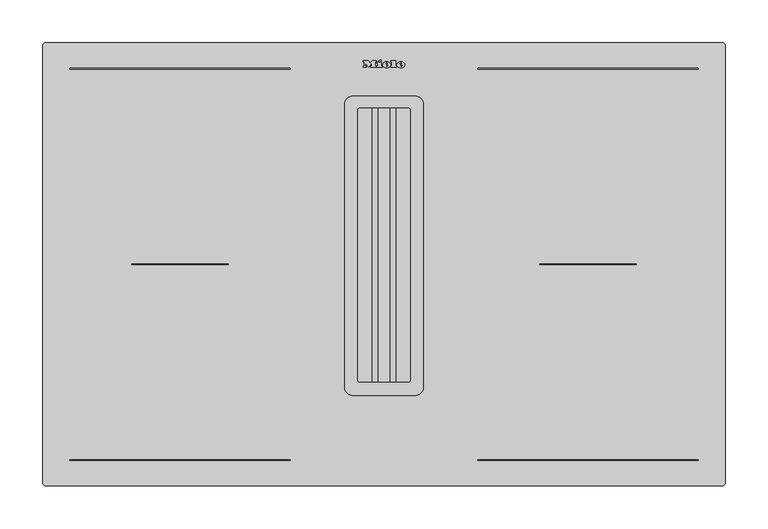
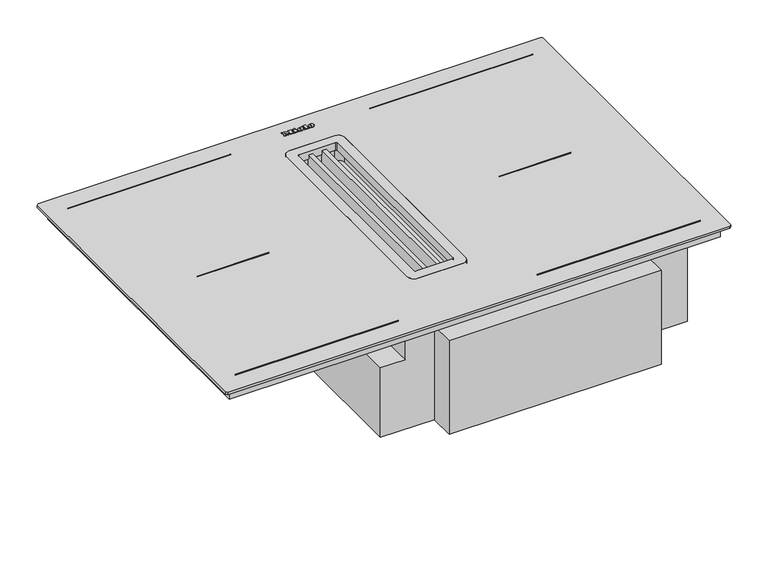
"""IFC4 building model written with IfcOpenShell, lengths in millimetres: proxy geometry, 12515480_GB_KMDA7876FL-U : 26787679_GB_12515480_KMDA7876FL-U."""

import ifcopenshell
import ifcopenshell.guid

model = None  # the IFC model being written
_history = None  # IfcOwnerHistory: only IFC2X3 demands one
_inside = {}  # id of a spatial element -> (the spatial element, [elements in it])
_under = {}  # id of a project, library or spatial element -> (it, [spatial elements below it])
_declared = {}  # id of a project -> (the project, [libraries it declares])
_typed = {}  # id of a type object -> (the type object, [elements of that type])
_made_of = {}  # id of a material, layer set ... -> (it, [elements and type objects made of it])


def new_model(schema):
    """Start an empty IFC model of exactly this schema.

    Asked for "IFC4X3", IfcOpenShell would pick the latest addendum, in which some entities
    have other attributes; the version numbers below select the first issue.
    IFC2X3 requires an IfcOwnerHistory on every rooted entity: one is made here for all.
    """
    global model, _history
    if schema == "IFC4X3":
        model = ifcopenshell.file(schema_version=(4, 3, 0, 0))
    else:
        model = ifcopenshell.file(schema=schema)
    _inside.clear()
    _under.clear()
    _declared.clear()
    _typed.clear()
    _made_of.clear()
    _history = None
    if model.schema == "IFC2X3":
        org = make("IfcOrganization", Name="unknown")
        user = make(
            "IfcPersonAndOrganization",
            ThePerson=make("IfcPerson", FamilyName="unknown"),
            TheOrganization=org,
        )
        app = make(
            "IfcApplication",
            ApplicationDeveloper=org,
            Version="unknown",
            ApplicationFullName="unknown",
            ApplicationIdentifier="unknown",
        )
        _history = make(
            "IfcOwnerHistory",
            OwningUser=user,
            OwningApplication=app,
            ChangeAction="ADDED",
            CreationDate=0,
        )
    return model


def make(cls, **values):
    """One entity of the class cls with the attributes given. An attribute that is None is left unset."""
    return model.create_entity(
        cls, **{name: value for name, value in values.items() if value is not None}
    )


def rooted(cls, **values):
    """An entity with a GlobalId (a new one), such as an element, a storey or a relation."""
    return make(cls, GlobalId=ifcopenshell.guid.new(), OwnerHistory=_history, **values)


def si_unit(unit_type, name, prefix=None):
    """IfcSIUnit, for example si_unit("LENGTHUNIT", "METRE", prefix="MILLI")."""
    return make("IfcSIUnit", UnitType=unit_type, Prefix=prefix, Name=name)


def assignment(units):
    """IfcUnitAssignment: the units of a project."""
    return None if units is None else make("IfcUnitAssignment", Units=units)


def point(xyz):
    """IfcCartesianPoint."""
    return None if xyz is None else make("IfcCartesianPoint", Coordinates=xyz)


def direction(xyz):
    """IfcDirection."""
    return None if xyz is None else make("IfcDirection", DirectionRatios=xyz)


def frame(location, z_axis=None, x_axis=None):
    """IfcAxis2Placement3D, a coordinate frame: its origin and axes. An axis left out is left unset."""
    return make(
        "IfcAxis2Placement3D",
        Location=point(location),
        Axis=direction(z_axis),
        RefDirection=direction(x_axis),
    )


def frame_2d(location, x_axis=None):
    """IfcAxis2Placement2D, a coordinate frame in the plane: its origin and x axis."""
    return make(
        "IfcAxis2Placement2D", Location=point(location), RefDirection=direction(x_axis)
    )


def origin():
    """The frame at (0, 0, 0) with its axes left unset."""
    return frame((0.0, 0.0, 0.0))


def origin_with_axes():
    """The frame at (0, 0, 0) with the z axis (0, 0, 1) and the x axis (1, 0, 0) written out."""
    return frame((0.0, 0.0, 0.0), z_axis=(0.0, 0.0, 1.0), x_axis=(1.0, 0.0, 0.0))


def place(relative_to, where):
    """IfcLocalPlacement: puts the frame where relative to a parent placement (None: the world)."""
    return make(
        "IfcLocalPlacement", PlacementRelTo=relative_to, RelativePlacement=where
    )


def context(
    kind, dimensions, precision=None, world=None, true_north=None, identifier=None
):
    """IfcGeometricRepresentationContext, for example the 3D "Model" context."""
    return make(
        "IfcGeometricRepresentationContext",
        ContextIdentifier=identifier,
        ContextType=kind,
        CoordinateSpaceDimension=dimensions,
        Precision=precision,
        WorldCoordinateSystem=world,
        TrueNorth=true_north,
    )


def project(units=None, contexts=None):
    """IfcProject with its units and contexts."""
    return rooted(
        "IfcProject",
        Name="project",
        RepresentationContexts=contexts,
        UnitsInContext=assignment(units),
    )


def spatial(cls, under=None, at=None, **own):
    """A site, building, storey or space (cls), placed at a placement, below another one or the project."""
    s = rooted(cls, ObjectPlacement=at, **own)
    if under is not None:
        _under.setdefault(under.id(), (under, []))[1].append(s)
    return s


def polyline(points):
    """IfcPolyline through the points."""
    return make("IfcPolyline", Points=[point(p) for p in points])


def circle_curve(where, radius):
    """IfcCircle in the frame where."""
    return make("IfcCircle", Position=where, Radius=radius)


def ellipse_curve(where, semi_axis1, semi_axis2):
    """IfcEllipse in the frame where."""
    return make(
        "IfcEllipse", Position=where, SemiAxis1=semi_axis1, SemiAxis2=semi_axis2
    )


def trimmed(basis, trim1, trim2, sense, master):
    """IfcTrimmedCurve: the piece of a basis curve between two trims."""
    return make(
        "IfcTrimmedCurve",
        BasisCurve=basis,
        Trim1=trim1,
        Trim2=trim2,
        SenseAgreement=sense,
        MasterRepresentation=master,
    )


def segment(curve, same_sense, transition):
    """IfcCompositeCurveSegment."""
    return make(
        "IfcCompositeCurveSegment",
        Transition=transition,
        SameSense=same_sense,
        ParentCurve=curve,
    )


def composite_curve(segments, self_intersect=None):
    """IfcCompositeCurve: segments joined end to end."""
    return make("IfcCompositeCurve", Segments=segments, SelfIntersect=self_intersect)


def outline(outer, holes=None, kind="AREA"):
    """IfcArbitraryClosedProfileDef: a profile drawn as a closed curve; with holes, ...WithVoids."""
    if holes is None:
        return make("IfcArbitraryClosedProfileDef", ProfileType=kind, OuterCurve=outer)
    return make(
        "IfcArbitraryProfileDefWithVoids",
        ProfileType=kind,
        OuterCurve=outer,
        InnerCurves=holes,
    )


def extrude(swept, where, along, depth):
    """IfcExtrudedAreaSolid: the profile swept, set in the frame where, extruded along a direction by depth."""
    return make(
        "IfcExtrudedAreaSolid",
        SweptArea=swept,
        Position=where,
        ExtrudedDirection=direction(along),
        Depth=depth,
    )


def shape(context_of_items, identifier, shape_type, items):
    """IfcShapeRepresentation: the items that make up one representation, for example the "Body"."""
    return make(
        "IfcShapeRepresentation",
        ContextOfItems=context_of_items,
        RepresentationIdentifier=identifier,
        RepresentationType=shape_type,
        Items=items,
    )


def source(mapping_origin, context_of_items, identifier, shape_type, items):
    """IfcRepresentationMap: a shape defined once, which mapped items show again and again."""
    return make(
        "IfcRepresentationMap",
        MappingOrigin=mapping_origin,
        MappedRepresentation=shape(context_of_items, identifier, shape_type, items),
    )


def transform(
    local_origin,
    x_axis=None,
    y_axis=None,
    z_axis=None,
    scale=None,
    scale2=None,
    scale3=None,
    uniform=True,
):
    """IfcCartesianTransformationOperator3D, or its non-uniform kind. x_axis, y_axis, z_axis: its Axis1, 2, 3."""
    if uniform:
        return make(
            "IfcCartesianTransformationOperator3D",
            Axis1=direction(x_axis),
            Axis2=direction(y_axis),
            LocalOrigin=point(local_origin),
            Scale=scale,
            Axis3=direction(z_axis),
        )
    return make(
        "IfcCartesianTransformationOperator3DnonUniform",
        Axis1=direction(x_axis),
        Axis2=direction(y_axis),
        LocalOrigin=point(local_origin),
        Scale=scale,
        Axis3=direction(z_axis),
        Scale2=scale2,
        Scale3=scale3,
    )


def mapped(mapping_source, mapping_target):
    """IfcMappedItem: shows the shape of a source again, moved by a transform."""
    return make(
        "IfcMappedItem", MappingSource=mapping_source, MappingTarget=mapping_target
    )


def made_of(thing, what):
    """Note that an element or type object is made of a material, layer set ...; save() writes the relation."""
    if what is not None:
        _made_of.setdefault(what.id(), (what, []))[1].append(thing)
    return thing


def element(
    cls,
    number,
    at=None,
    inside=None,
    cuts=None,
    type_object=None,
    material=None,
    context=None,
    identifier="Body",
    shape_type=None,
    held_by="IfcProductDefinitionShape",
    body=None,
    shapes=None,
    **own,
):
    """One element of the class cls, such as IfcWall. Its Tag is "e" and its number.

    at: its placement. inside: the storey or other place that contains it. cuts: it is an
    opening in that element (IfcRelVoidsElement). A single representation is given by context,
    identifier, shape_type and body (its items); several are given by shapes. held_by: the class
    of the entity that holds the representations. save() writes the other relations.
    """
    e = rooted(cls, Tag="e%d" % number, ObjectPlacement=at, **own)
    if body is not None:
        shapes = [shape(context, identifier, shape_type, body)]
    if shapes is not None:
        e.Representation = make(held_by, Representations=shapes)
    if inside is not None:
        _inside.setdefault(inside.id(), (inside, []))[1].append(e)
    if cuts is not None:
        rooted(
            "IfcRelVoidsElement", RelatingBuildingElement=cuts, RelatedOpeningElement=e
        )
    if type_object is not None:
        _typed.setdefault(type_object.id(), (type_object, []))[1].append(e)
    return made_of(e, material)


def aggregate(whole, parts):
    """IfcRelAggregates: a whole, such as a stair, and the parts it consists of."""
    return rooted("IfcRelAggregates", RelatingObject=whole, RelatedObjects=parts)


def save(model, path):
    """Write the relations noted so far, then the file.

    IfcRelAggregates (storeys below a building ...), IfcRelContainedInSpatialStructure (elements
    in a storey), IfcRelDefinesByType, IfcRelAssociatesMaterial and IfcRelDeclares: one each for
    every whole, place, type object, material and project.
    """
    for whole, parts in _under.values():
        aggregate(whole, parts)
    for where, things in _inside.values():
        rooted(
            "IfcRelContainedInSpatialStructure",
            RelatedElements=things,
            RelatingStructure=where,
        )
    for kind, things in _typed.values():
        rooted("IfcRelDefinesByType", RelatedObjects=things, RelatingType=kind)
    for what, things in _made_of.values():
        rooted("IfcRelAssociatesMaterial", RelatedObjects=things, RelatingMaterial=what)
    for by, libraries in _declared.values():
        rooted("IfcRelDeclares", RelatingContext=by, RelatedDefinitions=libraries)
    model.write(path)


def plane_surface(at):
    """IfcPlane: the flat surface through the origin of the frame at, square to its z axis."""
    return make("IfcPlane", Position=at)


def cylinder_surface(at, radius):
    """IfcCylindricalSurface: all points at the distance radius from the z axis of the frame at."""
    return make("IfcCylindricalSurface", Position=at, Radius=radius)


def revolved_surface(curve, axis_point, axis_direction):
    """IfcSurfaceOfRevolution: the curve turned about the line through axis_point along axis_direction."""
    return make(
        "IfcSurfaceOfRevolution",
        SweptCurve=make("IfcArbitraryOpenProfileDef", ProfileType="CURVE", Curve=curve),
        AxisPosition=make("IfcAxis1Placement", Location=point(axis_point), Axis=direction(axis_direction)),
    )


def extruded_surface(curve, direction_of_extrusion, depth):
    """IfcSurfaceOfLinearExtrusion: the curve pushed along a direction by depth."""
    return make(
        "IfcSurfaceOfLinearExtrusion",
        SweptCurve=make("IfcArbitraryOpenProfileDef", ProfileType="CURVE", Curve=curve),
        ExtrudedDirection=direction(direction_of_extrusion),
        Depth=depth,
    )


def advanced_brep(points, edges, surfaces, faces):
    """IfcAdvancedBrep: a solid bounded by faces that lie on surfaces and meet in shared edges.

    An edge is (start, end): straight between two places in points (the first is 0);
    or (start, end, curve); or (start, end, curve, False) where it runs against its curve.
    A face is (place in surfaces, loops), or (place, loops, False) where it looks against
    its surface's normal. A loop lists edges by number (the first is 1), with a minus sign
    where the edge is run from its end to its start. The first loop is the outer one.
    """
    corners = [point(p) for p in points]
    vertices = [make("IfcVertexPoint", VertexGeometry=c) for c in corners]
    made = []
    for start, end, *more in edges:
        made.append(
            make(
                "IfcEdgeCurve",
                EdgeStart=vertices[start],
                EdgeEnd=vertices[end],
                EdgeGeometry=more[0] if more else make("IfcPolyline", Points=[corners[start], corners[end]]),
                SameSense=more[1] if len(more) > 1 else True,
            )
        )
    hull = []
    for where, loops, *sense in faces:
        bounds = []
        for j, loop in enumerate(loops):
            ring = [make("IfcOrientedEdge", EdgeElement=made[abs(k) - 1], Orientation=k > 0) for k in loop]
            bounds.append(
                make(
                    "IfcFaceOuterBound" if j == 0 else "IfcFaceBound",
                    Bound=make("IfcEdgeLoop", EdgeList=ring),
                    Orientation=True,
                )
            )
        hull.append(make("IfcAdvancedFace", Bounds=bounds, FaceSurface=surfaces[where], SameSense=sense[0] if sense else True))
    return make("IfcAdvancedBrep", Outer=make("IfcClosedShell", CfsFaces=hull))


def specialty_equipment_ea9cbad4(model_context):
    return source(origin(), model_context, "Body", "SolidModel", [
        advanced_brep(
        [(19.088016, 492.896, 5.0), (19.088016, 493.704, 5.0), (24.440016, 493.704, 5.0), (15.128016, 493.704, 5.0), (17.328016, 491.0, 5.0), (24.304016, 492.896, 5.0), (21.888016, 492.896, 5.0), (19.984016, 492.0, 5.0), (19.088016, 494.728, 5.0), (19.088016, 495.6, 5.0), (20.456016, 495.6, 5.0), (20.456016, 494.728, 5.0), (19.088016, 492.896, 4.0), (19.984016, 492.0, 4.0), (21.888016, 492.896, 4.0), (24.304016, 492.896, 4.0), (17.328016, 491.0, 4.0), (15.128016, 493.704, 4.0), (24.440016, 493.704, 4.0), (19.088016, 493.704, 4.0), (19.088016, 494.728, 4.0), (20.456016, 494.728, 4.0), (20.456016, 495.6, 4.0), (19.088016, 495.6, 4.0)],
        [
            (0, 1),
            (1, 2),
            (2, 3, ellipse_curve(frame((19.784016, 493.704, 5.0), z_axis=(0.0, 0.0, 1.0), x_axis=(-1.0, 0.0, 0.0)), 4.656, 3.848)),
            (3, 4, circle_curve(frame((18.2240596, 493.976, 5.0), z_axis=(0.0, 0.0, 1.0), x_axis=(0.0, -1.0, 0.0)), 3.1079688)),
            (4, 5, circle_curve(frame((19.6908096, 496.088, 5.0), z_axis=(0.0, 0.0, 1.0), x_axis=(0.0, -1.0, 0.0)), 5.6098607)),
            (5, 6),
            (6, 7, circle_curve(frame((20.3750748, 493.64, 5.0), z_axis=(0.0, 0.0, -1.0), x_axis=(0.0, -1.0, 0.0)), 1.6859795)),
            (7, 0, circle_curve(frame((19.984016, 492.896, 5.0), z_axis=(0.0, 0.0, -1.0), x_axis=(0.0, -1.0, 0.0)), 0.896)),
            (8, 9),
            (9, 10, circle_curve(frame((19.772016, 495.6, 5.0), z_axis=(0.0, 0.0, -1.0), x_axis=(0.0, -1.0, 0.0)), 0.684)),
            (10, 11),
            (11, 8),
            (12, 13, circle_curve(frame((19.984016, 492.896, 4.0), z_axis=(0.0, 0.0, 1.0), x_axis=(0.0, -1.0, 0.0)), 0.896)),
            (13, 14, circle_curve(frame((20.3750748, 493.64, 4.0), z_axis=(0.0, 0.0, 1.0), x_axis=(0.0, -1.0, 0.0)), 1.6859795)),
            (14, 15),
            (15, 16, circle_curve(frame((19.6908096, 496.088, 4.0), z_axis=(0.0, 0.0, -1.0), x_axis=(0.0, -1.0, 0.0)), 5.6098607)),
            (16, 17, circle_curve(frame((18.2240596, 493.976, 4.0), z_axis=(0.0, 0.0, -1.0), x_axis=(0.0, -1.0, 0.0)), 3.1079688)),
            (17, 18, ellipse_curve(frame((19.784016, 493.704, 4.0), z_axis=(0.0, 0.0, -1.0), x_axis=(-1.0, 0.0, 0.0)), 4.656, 3.848)),
            (18, 19),
            (19, 12),
            (20, 21),
            (21, 22),
            (22, 23, circle_curve(frame((19.772016, 495.6, 4.0), z_axis=(0.0, 0.0, 1.0), x_axis=(0.0, -1.0, 0.0)), 0.684)),
            (23, 20),
            (0, 12),
            (19, 1),
            (18, 2),
            (5, 15),
            (14, 6),
            (17, 3),
            (13, 7),
            (16, 4),
            (8, 20),
            (23, 9),
            (22, 10),
            (21, 11),
        ],
        [
            plane_surface(frame((19.088016, 493.704, 5.0), z_axis=(0.0, 0.0, 1.0), x_axis=(0.0, 1.0, 0.0))),
            plane_surface(frame((19.088016, 493.704, 4.0), z_axis=(0.0, 0.0, -1.0), x_axis=(0.0, -1.0, 0.0))),
            plane_surface(frame((19.088016, 492.896, 5.0), z_axis=(1.0, 0.0, 0.0), x_axis=(0.0, 0.0, -1.0))),
            plane_surface(frame((19.088016, 493.704, 5.0), z_axis=(0.0, -1.0, 0.0), x_axis=(0.0, 0.0, -1.0))),
            plane_surface(frame((24.304016, 492.896, 5.0), z_axis=(0.0, 1.0, 0.0), x_axis=(0.0, 0.0, -1.0))),
            extruded_surface(trimmed(ellipse_curve(frame((19.784016, 493.704, 3.0), z_axis=(0.0, 0.0, 1.0), x_axis=(-1.0, 0.0, 0.0)), 4.656, 3.848), [point((24.440016, 493.704, 3.0))], [point((15.128016, 493.704, 3.0))], True, "CARTESIAN"), (0.0, 0.0, 1.0), 1.0),
            revolved_surface(polyline([(20.3750748, 491.9540205, 4.0), (20.3750748, 491.9540205, 5.0)]), (20.3750748, 493.64, 4.0), (0.0, 0.0, -1.0)),
            revolved_surface(polyline([(19.984016, 492.0, 4.0), (19.984016, 492.0, 5.0)]), (19.984016, 492.896, 4.0), (0.0, 0.0, -1.0)),
            cylinder_surface(frame((18.2240596, 493.976, 4.0), z_axis=(0.0, 0.0, 1.0), x_axis=(0.0, -1.0, 0.0)), 3.1079688),
            cylinder_surface(frame((19.6908096, 496.088, 4.0), z_axis=(0.0, 0.0, 1.0), x_axis=(0.0, -1.0, 0.0)), 5.6098607),
            plane_surface(frame((19.088016, 494.728, 5.0), z_axis=(1.0, 0.0, 0.0), x_axis=(0.0, 0.0, -1.0))),
            revolved_surface(polyline([(19.772016, 494.916, 4.0), (19.772016, 494.916, 5.0)]), (19.772016, 495.6, 4.0), (0.0, 0.0, -1.0)),
            plane_surface(frame((20.456016, 495.6, 5.0), z_axis=(-1.0, 0.0, 0.0), x_axis=(0.0, 0.0, -1.0))),
            plane_surface(frame((20.456016, 494.728, 5.0), z_axis=(0.0, 1.0, 0.0), x_axis=(0.0, 0.0, -1.0))),
        ],
        [
            (0, [[1, 2, 3, 4, 5, 6, 7, 8], [9, 10, 11, 12]]),
            (1, [[13, 14, 15, 16, 17, 18, 19, 20], [21, 22, 23, 24]]),
            (2, [[-1, 25, -20, 26]]),
            (3, [[-2, -26, -19, 27]]),
            (4, [[-6, 28, -15, 29]]),
            (5, [[-3, -27, -18, 30]]),
            (6, [[-7, -29, -14, 31]]),
            (7, [[-8, -31, -13, -25]]),
            (8, [[-4, -30, -17, 32]]),
            (9, [[-5, -32, -16, -28]]),
            (10, [[-9, 33, -24, 34]]),
            (11, [[-10, -34, -23, 35]]),
            (12, [[-11, -35, -22, 36]]),
            (13, [[-12, -36, -21, -33]]),
        ],
    ),
        advanced_brep(
        [(2.392016, 492.896, 5.0), (2.392016, 493.704, 5.0), (7.744016, 493.704, 5.0), (-1.567984, 493.704, 5.0), (0.632016, 491.0, 5.0), (7.608016, 492.896, 5.0), (5.192016, 492.896, 5.0), (3.288016, 492.0, 5.0), (2.392016, 494.728, 5.0), (2.392016, 495.6, 5.0), (3.760016, 495.6, 5.0), (3.760016, 494.728, 5.0), (2.392016, 492.896, 4.0), (3.288016, 492.0, 4.0), (5.192016, 492.896, 4.0), (7.608016, 492.896, 4.0), (0.632016, 491.0, 4.0), (-1.567984, 493.704, 4.0), (7.744016, 493.704, 4.0), (2.392016, 493.704, 4.0), (2.392016, 494.728, 4.0), (3.760016, 494.728, 4.0), (3.760016, 495.6, 4.0), (2.392016, 495.6, 4.0)],
        [
            (0, 1),
            (1, 2),
            (2, 3, ellipse_curve(frame((3.088016, 493.704, 5.0), z_axis=(0.0, 0.0, 1.0), x_axis=(-1.0, 0.0, 0.0)), 4.656, 3.848)),
            (3, 4, circle_curve(frame((1.5280596, 493.976, 5.0), z_axis=(0.0, 0.0, 1.0), x_axis=(0.0, -1.0, 0.0)), 3.1079688)),
            (4, 5, circle_curve(frame((2.9948096, 496.088, 5.0), z_axis=(0.0, 0.0, 1.0), x_axis=(0.0, -1.0, 0.0)), 5.6098607)),
            (5, 6),
            (6, 7, circle_curve(frame((3.6790748, 493.64, 5.0), z_axis=(0.0, 0.0, -1.0), x_axis=(0.0, -1.0, 0.0)), 1.6859795)),
            (7, 0, circle_curve(frame((3.288016, 492.896, 5.0), z_axis=(0.0, 0.0, -1.0), x_axis=(0.0, -1.0, 0.0)), 0.896)),
            (8, 9),
            (9, 10, circle_curve(frame((3.076016, 495.6, 5.0), z_axis=(0.0, 0.0, -1.0), x_axis=(0.0, -1.0, 0.0)), 0.684)),
            (10, 11),
            (11, 8),
            (12, 13, circle_curve(frame((3.288016, 492.896, 4.0), z_axis=(0.0, 0.0, 1.0), x_axis=(0.0, -1.0, 0.0)), 0.896)),
            (13, 14, circle_curve(frame((3.6790748, 493.64, 4.0), z_axis=(0.0, 0.0, 1.0), x_axis=(0.0, -1.0, 0.0)), 1.6859795)),
            (14, 15),
            (15, 16, circle_curve(frame((2.9948096, 496.088, 4.0), z_axis=(0.0, 0.0, -1.0), x_axis=(0.0, -1.0, 0.0)), 5.6098607)),
            (16, 17, circle_curve(frame((1.5280596, 493.976, 4.0), z_axis=(0.0, 0.0, -1.0), x_axis=(0.0, -1.0, 0.0)), 3.1079688)),
            (17, 18, ellipse_curve(frame((3.088016, 493.704, 4.0), z_axis=(0.0, 0.0, -1.0), x_axis=(-1.0, 0.0, 0.0)), 4.656, 3.848)),
            (18, 19),
            (19, 12),
            (20, 21),
            (21, 22),
            (22, 23, circle_curve(frame((3.076016, 495.6, 4.0), z_axis=(0.0, 0.0, 1.0), x_axis=(0.0, -1.0, 0.0)), 0.684)),
            (23, 20),
            (0, 12),
            (19, 1),
            (18, 2),
            (5, 15),
            (14, 6),
            (17, 3),
            (13, 7),
            (16, 4),
            (8, 20),
            (23, 9),
            (22, 10),
            (21, 11),
        ],
        [
            plane_surface(frame((2.392016, 493.704, 5.0), z_axis=(0.0, 0.0, 1.0), x_axis=(0.0, 1.0, 0.0))),
            plane_surface(frame((2.392016, 493.704, 4.0), z_axis=(0.0, 0.0, -1.0), x_axis=(0.0, -1.0, 0.0))),
            plane_surface(frame((2.392016, 492.896, 5.0), z_axis=(1.0, 0.0, 0.0), x_axis=(0.0, 0.0, -1.0))),
            plane_surface(frame((2.392016, 493.704, 5.0), z_axis=(0.0, -1.0, 0.0), x_axis=(0.0, 0.0, -1.0))),
            plane_surface(frame((7.608016, 492.896, 5.0), z_axis=(0.0, 1.0, 0.0), x_axis=(0.0, 0.0, -1.0))),
            extruded_surface(trimmed(ellipse_curve(frame((3.088016, 493.704, 3.0), z_axis=(0.0, 0.0, 1.0), x_axis=(-1.0, 0.0, 0.0)), 4.656, 3.848), [point((7.744016, 493.704, 3.0))], [point((-1.567984, 493.704, 3.0))], True, "CARTESIAN"), (0.0, 0.0, 1.0), 1.0),
            revolved_surface(polyline([(3.6790748, 491.9540205, 4.0), (3.6790748, 491.9540205, 5.0)]), (3.6790748, 493.64, 4.0), (0.0, 0.0, -1.0)),
            revolved_surface(polyline([(3.288016, 492.0, 4.0), (3.288016, 492.0, 5.0)]), (3.288016, 492.896, 4.0), (0.0, 0.0, -1.0)),
            cylinder_surface(frame((1.5280596, 493.976, 4.0), z_axis=(0.0, 0.0, 1.0), x_axis=(0.0, -1.0, 0.0)), 3.1079688),
            cylinder_surface(frame((2.9948096, 496.088, 4.0), z_axis=(0.0, 0.0, 1.0), x_axis=(0.0, -1.0, 0.0)), 5.6098607),
            plane_surface(frame((2.392016, 494.728, 5.0), z_axis=(1.0, 0.0, 0.0), x_axis=(0.0, 0.0, -1.0))),
            revolved_surface(polyline([(3.076016, 494.916, 4.0), (3.076016, 494.916, 5.0)]), (3.076016, 495.6, 4.0), (0.0, 0.0, -1.0)),
            plane_surface(frame((3.760016, 495.6, 5.0), z_axis=(-1.0, 0.0, 0.0), x_axis=(0.0, 0.0, -1.0))),
            plane_surface(frame((3.760016, 494.728, 5.0), z_axis=(0.0, 1.0, 0.0), x_axis=(0.0, 0.0, -1.0))),
        ],
        [
            (0, [[1, 2, 3, 4, 5, 6, 7, 8], [9, 10, 11, 12]]),
            (1, [[13, 14, 15, 16, 17, 18, 19, 20], [21, 22, 23, 24]]),
            (2, [[-1, 25, -20, 26]]),
            (3, [[-2, -26, -19, 27]]),
            (4, [[-6, 28, -15, 29]]),
            (5, [[-3, -27, -18, 30]]),
            (6, [[-7, -29, -14, 31]]),
            (7, [[-8, -31, -13, -25]]),
            (8, [[-4, -30, -17, 32]]),
            (9, [[-5, -32, -16, -28]]),
            (10, [[-9, 33, -24, 34]]),
            (11, [[-10, -34, -23, 35]]),
            (12, [[-11, -35, -22, 36]]),
            (13, [[-12, -36, -21, -33]]),
        ],
    ),
        extrude(outline(polyline([(-6.351984, 498.528), (-3.631984, 499.792), (-3.031984, 498.496), (-5.743984, 497.232), (-6.351984, 498.528)])), frame((0.0, 0.0, 4.0), z_axis=(0.0, 0.0, 1.0), x_axis=(1.0, 0.0, 0.0)), (0.0, 0.0, 1.0), 1.0),
        extrude(outline(polyline([(-8.327984, 497.056), (-2.943984, 497.056), (-2.943984, 492.344), (-2.015984, 492.344), (-2.015984, 491.0), (-8.327984, 491.0), (-8.327984, 492.344), (-7.375984, 492.344), (-7.375984, 495.624), (-8.327984, 495.624), (-8.327984, 497.056)])), frame((0.0, 0.0, 4.0), z_axis=(0.0, 0.0, 1.0), x_axis=(1.0, 0.0, 0.0)), (0.0, 0.0, 1.0), 1.0),
        extrude(outline(polyline([(8.192016, 497.696), (8.192016, 499.0), (13.696016, 499.0), (13.696016, 492.344), (14.680016, 492.344), (14.680016, 491.0), (8.192016, 491.0), (8.192016, 492.344), (9.152016, 492.344), (9.152016, 497.696), (8.192016, 497.696)])), frame((0.0, 0.0, 4.0), z_axis=(0.0, 0.0, 1.0), x_axis=(1.0, 0.0, 0.0)), (0.0, 0.0, 1.0), 1.0),
        extrude(outline(polyline([(-24.271984, 497.696), (-24.271984, 499.0), (-18.695984, 499.0), (-16.351984, 496.0), (-14.015984, 499.0), (-9.143984, 499.0), (-9.143984, 497.696), (-10.159984, 497.696), (-10.159984, 492.344), (-9.143984, 492.344), (-9.143984, 491.0), (-15.527984, 491.0), (-15.527984, 492.344), (-14.543984, 492.344), (-14.543984, 495.8152223), (-18.135984, 491.0), (-21.711984, 495.7471247), (-21.711984, 492.344), (-20.751984, 492.344), (-20.751984, 491.0), (-24.271984, 491.0), (-24.271984, 492.344), (-23.303984, 492.344), (-23.303984, 497.696), (-24.271984, 497.696)])), frame((0.0, 0.0, 4.0), z_axis=(0.0, 0.0, 1.0), x_axis=(1.0, 0.0, 0.0)), (0.0, 0.0, 1.0), 1.0),
        extrude(outline(polyline([(-368.065788, 489.8634331), (-110.065788, 489.8634331), (-110.065788, 489.0732086), (-368.065788, 489.0732086), (-368.065788, 489.8634331)])), frame((0.0, 0.0, 4.0), z_axis=(0.0, 0.0, 1.0), x_axis=(1.0, 0.0, 0.0)), (0.0, 0.0, 1.0), 1.0),
        extrude(outline(polyline([(368.065788, 489.8634331), (368.065788, 489.0732086), (110.065788, 489.0732086), (110.065788, 489.8634331), (368.065788, 489.8634331)])), frame((0.0, 0.0, 4.0), z_axis=(0.0, 0.0, 1.0), x_axis=(1.0, 0.0, 0.0)), (0.0, 0.0, 1.0), 1.0),
        extrude(outline(polyline([(-368.065788, 30.1365667), (-368.065788, 30.9267912), (-110.065788, 30.9267912), (-110.065788, 30.1365667), (-368.065788, 30.1365667)])), frame((0.0, 0.0, 4.0), z_axis=(0.0, 0.0, 1.0), x_axis=(1.0, 0.0, 0.0)), (0.0, 0.0, 1.0), 1.0),
        extrude(outline(polyline([(368.065788, 30.1365667), (110.065788, 30.1365667), (110.065788, 30.9267912), (368.065788, 30.9267912), (368.065788, 30.1365667)])), frame((0.0, 0.0, 4.0), z_axis=(0.0, 0.0, 1.0), x_axis=(1.0, 0.0, 0.0)), (0.0, 0.0, 1.0), 1.0),
        extrude(outline(polyline([(-295.5, 260.3951122), (-182.5, 260.3951122), (-182.5, 259.6048876), (-295.5, 259.6048876), (-295.5, 260.3951122)])), frame((0.0, 0.0, 4.0), z_axis=(0.0, 0.0, 1.0), x_axis=(1.0, 0.0, 0.0)), (0.0, 0.0, 1.0), 1.0),
        extrude(outline(polyline([(295.5, 260.3951122), (295.5, 259.6048876), (182.5, 259.6048876), (182.5, 260.3951122), (295.5, 260.3951122)])), frame((0.0, 0.0, 4.0), z_axis=(0.0, 0.0, 1.0), x_axis=(1.0, 0.0, 0.0)), (0.0, 0.0, 1.0), 1.0),
        extrude(outline(composite_curve([segment(polyline([(-45.9999987, 115.9999992), (-45.9999987, 447.4999992)]), True, "CONTINUOUS"), segment(trimmed(circle_curve(frame_2d((-35.9999987, 447.4999992)), 10.0), [point((-45.9999987, 447.4999992))], [point((-35.9999987, 457.4999992))], False, "CARTESIAN"), True, "CONTINUOUS"), segment(polyline([(-35.9999987, 457.4999992), (35.9999987, 457.4999992)]), True, "CONTINUOUS"), segment(trimmed(circle_curve(frame_2d((35.9999987, 447.4999992)), 10.0), [point((35.9999987, 457.4999992))], [point((45.9999987, 447.4999992))], False, "CARTESIAN"), True, "CONTINUOUS"), segment(polyline([(45.9999987, 447.4999992), (45.9999987, 115.9999992)]), True, "CONTINUOUS"), segment(trimmed(circle_curve(frame_2d((35.9999987, 115.9999992)), 10.0), [point((45.9999987, 115.9999992))], [point((35.9999987, 105.9999992))], False, "CARTESIAN"), True, "CONTINUOUS"), segment(polyline([(35.9999987, 105.9999992), (-35.9999987, 105.9999992)]), True, "CONTINUOUS"), segment(trimmed(circle_curve(frame_2d((-35.9999987, 115.9999992)), 10.0), [point((-35.9999987, 105.9999992))], [point((-45.9999987, 115.9999992))], False, "CARTESIAN"), True, "CONTINUOUS")], self_intersect=False), holes=[composite_curve([segment(trimmed(circle_curve(frame_2d((-28.688139, 124.1576538)), 2.0), [point((-30.688139, 124.1576538))], [point((-28.688139, 122.1576538))], True, "CARTESIAN"), True, "CONTINUOUS"), segment(polyline([(-28.688139, 122.1576538), (28.688139, 122.1576538)]), True, "CONTINUOUS"), segment(trimmed(circle_curve(frame_2d((28.688139, 124.1576538)), 2.0), [point((28.688139, 122.1576538))], [point((30.688139, 124.1576538))], True, "CARTESIAN"), True, "CONTINUOUS"), segment(polyline([(30.688139, 124.1576538), (30.688139, 440.9186707)]), True, "CONTINUOUS"), segment(trimmed(circle_curve(frame_2d((28.688139, 440.9186707)), 2.0), [point((30.688139, 440.9186707))], [point((28.688139, 442.9186707))], True, "CARTESIAN"), True, "CONTINUOUS"), segment(polyline([(28.688139, 442.9186707), (-28.688139, 442.9186707)]), True, "CONTINUOUS"), segment(trimmed(circle_curve(frame_2d((-28.688139, 440.9186707)), 2.0), [point((-28.688139, 442.9186707))], [point((-30.688139, 440.9186707))], True, "CARTESIAN"), True, "CONTINUOUS"), segment(polyline([(-30.688139, 440.9186707), (-30.688139, 124.1576538)]), True, "CONTINUOUS")], self_intersect=False)]), frame((0.0, 0.0, -8.5215403), z_axis=(0.0, 0.0, 1.0), x_axis=(1.0, 0.0, 0.0)), (0.0, 0.0, 1.0), 12.5215403),
        extrude(outline(polyline([(-343.1216701, 96.3863349), (-343.1216701, 495.0), (-75.402586, 495.0), (-75.402586, 96.3863349), (-343.1216701, 96.3863349)])), frame((0.0, 0.0, -46.5), z_axis=(0.0, 0.0, 1.0), x_axis=(1.0, 0.0, 0.0)), (0.0, 0.0, 1.0), 28.6958097),
        extrude(outline(polyline([(336.1107845, 495.0), (336.1107845, 96.3863349), (104.0, 96.3863349), (104.0, 495.0), (336.1107845, 495.0)])), frame((0.0, 0.0, -46.5), z_axis=(0.0, 0.0, 1.0), x_axis=(1.0, 0.0, 0.0)), (0.0, 0.0, 1.0), 28.6958097),
        extrude(outline(polyline([(388.5, 508.4999986), (388.5, 11.4999971), (-388.5, 11.4999971), (-388.5, 508.4999986), (388.5, 508.4999986)]), holes=[composite_curve([segment(polyline([(45.9999987, 115.9999979), (45.9999987, 447.4999992)]), True, "CONTINUOUS"), segment(trimmed(circle_curve(frame_2d((35.9999987, 447.4999992)), 10.0), [point((45.9999987, 447.4999992))], [point((35.9999987, 457.4999992))], True, "CARTESIAN"), True, "CONTINUOUS"), segment(polyline([(35.9999987, 457.4999992), (-35.9999987, 457.4999992)]), True, "CONTINUOUS"), segment(trimmed(circle_curve(frame_2d((-35.9999987, 447.4999992)), 10.0), [point((-35.9999987, 457.4999992))], [point((-45.9999987, 447.4999992))], True, "CARTESIAN"), True, "CONTINUOUS"), segment(polyline([(-45.9999987, 447.4999992), (-45.9999987, 115.9999979)]), True, "CONTINUOUS"), segment(trimmed(circle_curve(frame_2d((-36.0, 115.9999979)), 9.9999987), [point((-45.9999987, 115.9999979))], [point((-36.0, 105.9999992))], True, "CARTESIAN"), True, "CONTINUOUS"), segment(polyline([(-36.0, 105.9999992), (36.0, 105.9999992)]), True, "CONTINUOUS"), segment(trimmed(circle_curve(frame_2d((36.0, 115.9999979)), 9.9999987), [point((36.0, 105.9999992))], [point((45.9999987, 115.9999979))], True, "CARTESIAN"), True, "CONTINUOUS")], self_intersect=False)]), frame((0.0, 0.0, -17.8041903), z_axis=(0.0, 0.0, 1.0), x_axis=(1.0, 0.0, 0.0)), (0.0, 0.0, 1.0), 17.8041903),
        extrude(outline(polyline([(397.5, 520.0), (400.0, 517.5), (400.0, 2.5), (397.5, 0.0), (-397.5, 0.0), (-400.0, 2.5), (-400.0, 517.5), (-397.5, 520.0), (397.5, 520.0)]), holes=[composite_curve([segment(polyline([(35.9999987, 457.4999992), (-35.9999987, 457.4999992)]), True, "CONTINUOUS"), segment(trimmed(circle_curve(frame_2d((-35.9999987, 447.4999992)), 10.0), [point((-35.9999987, 457.4999992))], [point((-45.9999987, 447.4999992))], True, "CARTESIAN"), True, "CONTINUOUS"), segment(polyline([(-45.9999987, 447.4999992), (-45.9999987, 115.9999979)]), True, "CONTINUOUS"), segment(trimmed(circle_curve(frame_2d((-36.0, 115.9999979)), 9.9999987), [point((-45.9999987, 115.9999979))], [point((-36.0, 105.9999992))], True, "CARTESIAN"), True, "CONTINUOUS"), segment(polyline([(-36.0, 105.9999992), (36.0, 105.9999992)]), True, "CONTINUOUS"), segment(trimmed(circle_curve(frame_2d((36.0, 115.9999979)), 9.9999987), [point((36.0, 105.9999992))], [point((45.9999987, 115.9999979))], True, "CARTESIAN"), True, "CONTINUOUS"), segment(polyline([(45.9999987, 115.9999979), (45.9999987, 447.4999992)]), True, "CONTINUOUS"), segment(trimmed(circle_curve(frame_2d((35.9999987, 447.4999992)), 10.0), [point((45.9999987, 447.4999992))], [point((35.9999987, 457.4999992))], True, "CARTESIAN"), True, "CONTINUOUS")], self_intersect=False)]), origin_with_axes(), (0.0, 0.0, 1.0), 4.0),
        extrude(outline(composite_curve([segment(trimmed(circle_curve(frame_2d((-148.0, 170.0)), 78.9393921), [point((-148.0, 91.0606079))], [point((-148.0, 248.9393921))], False, "CARTESIAN"), True, "CONTINUOUS"), segment(trimmed(circle_curve(frame_2d((-148.0, 170.0)), 78.9393921), [point((-148.0, 248.9393921))], [point((-148.0, 91.0606079))], False, "CARTESIAN"), True, "CONTINUOUS")], self_intersect=False), holes=[composite_curve([segment(trimmed(circle_curve(frame_2d((-148.0, 170.0)), 77.9393921), [point((-148.0, 92.0606079))], [point((-148.0, 247.9393921))], True, "CARTESIAN"), True, "CONTINUOUS"), segment(trimmed(circle_curve(frame_2d((-148.0, 170.0)), 77.9393921), [point((-148.0, 247.9393921))], [point((-148.0, 92.0606079))], True, "CARTESIAN"), True, "CONTINUOUS")], self_intersect=False)]), frame((0.0, 426.3304607, 0.0), z_axis=(0.0, 1.0, 0.0), x_axis=(0.0, 0.0, 1.0)), (0.0, 0.0, 1.0), 17.9123918),
        extrude(outline(polyline([(-13.6048155, 120.1989746), (-13.6048155, 443.7301863), (-7.3951845, 443.7301863), (-7.3951845, 120.1989746), (-13.6048155, 120.1989746)])), frame((0.0, 0.0, -26.3132825), z_axis=(0.0, 0.0, 1.0), x_axis=(1.0, 0.0, 0.0)), (0.0, 0.0, 1.0), 24.7104098),
        extrude(outline(polyline([(13.6048155, 120.1989746), (7.3951845, 120.1989746), (7.3951845, 443.7301863), (13.6048155, 443.7301863), (13.6048155, 120.1989746)])), frame((0.0, 0.0, -26.3132825), z_axis=(0.0, 0.0, 1.0), x_axis=(1.0, 0.0, 0.0)), (0.0, 0.0, 1.0), 24.7104098),
        advanced_brep(
        [(53.6506051, 96.5541828, -54.0), (52.4705494, 96.5541828, -54.0), (52.4705494, 96.5541828, -17.8041903), (-52.4705494, 96.5541828, -17.8041903), (-52.4705494, 96.5541828, -54.0), (-60.8014535, 96.5541828, -54.0), (-60.8014535, 96.5541828, -117.5), (-100.1207428, 96.5541828, -117.5), (-100.1207428, 96.5541828, -234.0), (-15.0, 96.5541828, -234.0), (-15.0, 96.5541828, -77.5), (53.6506051, 96.5541828, -77.5), (-100.1207428, 495.5, -234.0), (-100.1207428, 495.5, -117.5), (-60.8014535, 495.5, -117.5), (-60.8014535, 495.5, -54.0), (-52.4705494, 495.5, -54.0), (-52.4705494, 495.5, -17.8041903), (52.4705494, 495.5, -17.8041903), (52.4705494, 495.5, -54.0), (53.6506051, 495.5, -54.0), (53.6506051, 495.5, -234.0), (53.6506051, 101.0, -77.5), (53.6506051, 101.0, -56.9972547), (53.6506051, 426.3304607, -56.9972547), (53.6506051, 426.3304607, -234.0), (45.9999987, 447.4999992, -17.8041903), (45.9999987, 115.9999979, -17.8041903), (36.0, 105.9999992, -17.8041903), (-36.0, 105.9999992, -17.8041903), (-45.9999987, 115.9999979, -17.8041903), (-45.9999987, 447.4999992, -17.8041903), (-35.9999987, 457.4999992, -17.8041903), (35.9999987, 457.4999992, -17.8041903), (388.5, 101.0, -56.9972547), (321.1107845, 101.0, -77.5), (321.1107845, 101.0, -213.2731462), (388.5, 101.0, -213.2731462), (388.5, 426.3304607, -56.9972547), (388.5, 426.3304607, -213.2731462), (342.3970703, 426.3304607, -213.2731462), (342.3970703, 426.3304607, -234.0), (342.3970703, 388.6357055, -234.0), (380.8010657, 352.3414513, -234.0), (380.8010657, 214.7386902, -234.0), (267.9814513, 109.112153, -234.0), (321.1107845, 109.112153, -234.0), (321.1107845, 55.7496808, -234.0), (-15.0, 55.7496808, -234.0), (380.8010657, 214.7386902, -213.2731462), (380.8010657, 352.3414513, -213.2731462), (342.3970703, 388.6357055, -213.2731462), (321.1107845, 109.112153, -213.2731462), (267.9814513, 109.112153, -213.2731462), (45.9999987, 115.9999979, -38.2608409), (45.9999987, 447.4999992, -38.2608409), (35.9999987, 457.4999992, -38.2608409), (-35.9999987, 457.4999992, -38.2608409), (-45.9999987, 447.4999992, -38.2608409), (-45.9999987, 115.9999979, -38.2608409), (-36.0, 105.9999992, -38.2608409), (36.0, 105.9999992, -38.2608409), (-15.0, 55.7496808, -77.5), (321.1107845, 55.7496808, -77.5)],
        [
            (0, 1),
            (1, 2),
            (2, 3),
            (3, 4),
            (4, 5),
            (5, 6),
            (6, 7),
            (7, 8),
            (8, 9),
            (9, 10),
            (10, 11),
            (11, 0),
            (12, 13),
            (13, 14),
            (14, 15),
            (15, 16),
            (16, 17),
            (17, 18),
            (18, 19),
            (19, 20),
            (20, 21),
            (21, 12),
            (20, 0),
            (11, 22),
            (22, 23),
            (23, 24),
            (24, 25),
            (25, 21),
            (19, 1),
            (18, 2),
            (17, 3),
            (26, 27),
            (27, 28, circle_curve(frame((36.0, 115.9999979, -17.8041903), z_axis=(0.0, 0.0, -1.0), x_axis=(1.0, 0.0, 0.0)), 9.9999987)),
            (28, 29),
            (29, 30, circle_curve(frame((-36.0, 115.9999979, -17.8041903), z_axis=(0.0, 0.0, -1.0), x_axis=(1.0, 0.0, 0.0)), 9.9999987)),
            (30, 31),
            (31, 32, circle_curve(frame((-35.9999987, 447.4999992, -17.8041903), z_axis=(0.0, 0.0, -1.0), x_axis=(1.0, 0.0, 0.0)), 10.0)),
            (32, 33),
            (33, 26, circle_curve(frame((35.9999987, 447.4999992, -17.8041903), z_axis=(0.0, 0.0, -1.0), x_axis=(1.0, 0.0, 0.0)), 10.0)),
            (16, 4),
            (15, 5),
            (14, 6),
            (13, 7),
            (12, 8),
            (34, 23),
            (22, 35),
            (35, 36),
            (36, 37),
            (37, 34),
            (24, 38),
            (38, 39),
            (39, 40),
            (40, 41),
            (41, 25),
            (38, 34),
            (37, 39),
            (41, 42),
            (42, 43, circle_curve(frame((322.8680046, 329.506125, -234.0), z_axis=(0.0, 0.0, -1.0), x_axis=(1.0, 0.0, 0.0)), 62.2711145)),
            (43, 44),
            (44, 45, circle_curve(frame((212.1419224, 281.8188418, -234.0), z_axis=(0.0, 0.0, -1.0), x_axis=(1.0, 0.0, 0.0)), 181.5093753)),
            (45, 46),
            (46, 47),
            (47, 48),
            (48, 9),
            (49, 50),
            (50, 51, circle_curve(frame((322.8680046, 329.506125, -213.2731462), z_axis=(0.0, 0.0, 1.0), x_axis=(1.0, 0.0, 0.0)), 62.2711145)),
            (51, 40),
            (36, 52),
            (52, 53),
            (53, 49, circle_curve(frame((212.1419224, 281.8188418, -213.2731462), z_axis=(0.0, 0.0, 1.0), x_axis=(1.0, 0.0, 0.0)), 181.5093753)),
            (49, 44),
            (43, 50),
            (53, 45),
            (51, 42),
            (54, 55),
            (55, 56, circle_curve(frame((35.9999987, 447.4999992, -38.2608409), z_axis=(0.0, 0.0, 1.0), x_axis=(1.0, 0.0, 0.0)), 10.0)),
            (56, 57),
            (57, 58, circle_curve(frame((-35.9999987, 447.4999992, -38.2608409), z_axis=(0.0, 0.0, 1.0), x_axis=(1.0, 0.0, 0.0)), 10.0)),
            (58, 59),
            (59, 60, circle_curve(frame((-36.0, 115.9999979, -38.2608409), z_axis=(0.0, 0.0, 1.0), x_axis=(1.0, 0.0, 0.0)), 9.9999987)),
            (60, 61),
            (61, 54, circle_curve(frame((36.0, 115.9999979, -38.2608409), z_axis=(0.0, 0.0, 1.0), x_axis=(1.0, 0.0, 0.0)), 9.9999987)),
            (54, 27),
            (26, 55),
            (33, 56),
            (32, 57),
            (31, 58),
            (30, 59),
            (29, 60),
            (28, 61),
            (62, 48),
            (47, 63),
            (63, 62),
            (52, 46),
            (62, 10),
            (35, 63),
        ],
        [
            plane_surface(frame((380.8010657, 96.5541828, -234.0), z_axis=(0.0, -1.0, 0.0), x_axis=(1.0, 0.0, 0.0))),
            plane_surface(frame((380.8010657, 495.5, -234.0), z_axis=(0.0, 1.0, 0.0), x_axis=(-1.0, 0.0, 0.0))),
            plane_surface(frame((53.6506051, 96.5541828, -234.0), z_axis=(1.0, 0.0, 0.0), x_axis=(0.0, 1.0, 0.0))),
            plane_surface(frame((53.6506051, 96.5541828, -54.0), z_axis=(0.0, 0.0, 1.0), x_axis=(0.0, 1.0, 0.0))),
            plane_surface(frame((52.4705494, 96.5541828, -54.0), z_axis=(1.0, 0.0, 0.0), x_axis=(0.0, 1.0, 0.0))),
            plane_surface(frame((52.4705494, 96.5541828, -17.8041903), z_axis=(0.0, 0.0, 1.0), x_axis=(0.0, 1.0, 0.0))),
            plane_surface(frame((-52.4705494, 96.5541828, -17.8041903), z_axis=(-1.0, 0.0, 0.0), x_axis=(0.0, 1.0, 0.0))),
            plane_surface(frame((-52.4705494, 96.5541828, -54.0), z_axis=(0.0, 0.0, 1.0), x_axis=(0.0, 1.0, 0.0))),
            plane_surface(frame((-60.8014535, 96.5541828, -54.0), z_axis=(-1.0, 0.0, 0.0), x_axis=(0.0, 1.0, 0.0))),
            plane_surface(frame((-60.8014535, 96.5541828, -117.5), z_axis=(0.0, 0.0, 1.0), x_axis=(0.0, 1.0, 0.0))),
            plane_surface(frame((-100.1207428, 96.5541828, -117.5), z_axis=(-1.0, 0.0, 0.0), x_axis=(0.0, 1.0, 0.0))),
            plane_surface(frame((53.7285029, 101.0, -56.9972547), z_axis=(0.0, -1.0, 0.0), x_axis=(-1.0, 0.0, 0.0))),
            plane_surface(frame((53.7285029, 426.3304607, -56.9972547), z_axis=(0.0, 1.0, 0.0), x_axis=(1.0, 0.0, 0.0))),
            plane_surface(frame((388.5, 101.0, -234.0), z_axis=(1.0, 0.0, 0.0), x_axis=(0.0, 1.0, 0.0))),
            plane_surface(frame((388.5, 101.0, -56.9972547), z_axis=(0.0, 0.0, 1.0), x_axis=(0.0, 1.0, 0.0))),
            plane_surface(frame((53.6506051, 101.0, -234.0), z_axis=(0.0, 0.0, -1.0), x_axis=(0.0, 1.0, 0.0))),
            plane_surface(frame((342.3970703, 388.6357055, -213.2731462), z_axis=(0.0, 0.0, -1.0), x_axis=(0.0, -1.0, 0.0))),
            plane_surface(frame((380.8010657, 352.3414513, -213.2731462), z_axis=(1.0, 0.0, 0.0), x_axis=(0.0, 0.0, -1.0))),
            cylinder_surface(frame((212.1419224, 281.8188418, -301.7152941), z_axis=(0.0, 0.0, -1.0), x_axis=(1.0, 0.0, 0.0)), 181.5093753),
            plane_surface(frame((342.3970703, 437.085126, -213.2731462), z_axis=(1.0, 0.0, 0.0), x_axis=(0.0, 0.0, -1.0))),
            cylinder_surface(frame((322.8680046, 329.506125, -301.7152941), z_axis=(0.0, 0.0, -1.0), x_axis=(1.0, 0.0, 0.0)), 62.2711145),
            plane_surface(frame((45.9999987, 447.4999992, -38.2608409), z_axis=(0.0, 0.0, 1.0), x_axis=(0.0, -1.0, 0.0))),
            plane_surface(frame((45.9999987, 115.9999979, 48.6771451), z_axis=(-1.0, 0.0, 0.0), x_axis=(0.0, 0.0, -1.0))),
            revolved_surface(polyline([(45.9999987, 447.4999992, -17.8041903), (45.9999987, 447.4999992, -38.2608409)]), (35.9999987, 447.4999992, -38.2608409), (0.0, 0.0, 1.0)),
            plane_surface(frame((35.9999987, 457.4999992, 48.6771451), z_axis=(0.0, -1.0, 0.0), x_axis=(0.0, 0.0, -1.0))),
            revolved_surface(polyline([(-25.9999987, 447.4999992, -17.8041903), (-25.9999987, 447.4999992, -38.2608409)]), (-35.9999987, 447.4999992, -38.2608409), (0.0, 0.0, 1.0)),
            plane_surface(frame((-45.9999987, 447.4999992, 48.6771451), z_axis=(1.0, 0.0, 0.0), x_axis=(0.0, 0.0, -1.0))),
            revolved_surface(polyline([(-26.0000013, 115.9999979, -17.8041903), (-26.0000013, 115.9999979, -38.2608409)]), (-36.0, 115.9999979, -38.2608409), (0.0, 0.0, 1.0)),
            plane_surface(frame((-36.0, 105.9999992, 48.6771451), z_axis=(0.0, 1.0, 0.0), x_axis=(0.0, 0.0, -1.0))),
            revolved_surface(polyline([(45.9999987, 115.9999979, -17.8041903), (45.9999987, 115.9999979, -38.2608409)]), (36.0, 115.9999979, -38.2608409), (0.0, 0.0, 1.0)),
            plane_surface(frame((-15.0, 55.7496808, -92.8266525), z_axis=(0.0, -1.0, 0.0), x_axis=(0.0, 0.0, -1.0))),
            plane_surface(frame((-15.0, 109.112153, -92.8266525), z_axis=(0.0, 1.0, 0.0), x_axis=(0.0, 0.0, 1.0))),
            plane_surface(frame((-15.0, 55.7496808, -77.5), z_axis=(-1.0, 0.0, 0.0), x_axis=(0.0, 1.0, 0.0))),
            plane_surface(frame((321.1107845, 55.7496808, -234.0), z_axis=(1.0, 0.0, 0.0), x_axis=(0.0, 1.0, 0.0))),
            plane_surface(frame((321.1107845, 55.7496808, -77.5), z_axis=(0.0, 0.0, 1.0), x_axis=(0.0, 1.0, 0.0))),
        ],
        [
            (0, [[1, 2, 3, 4, 5, 6, 7, 8, 9, 10, 11, 12]]),
            (1, [[13, 14, 15, 16, 17, 18, 19, 20, 21, 22]]),
            (2, [[-21, 23, -12, 24, 25, 26, 27, 28]]),
            (3, [[-1, -23, -20, 29]]),
            (4, [[-2, -29, -19, 30]]),
            (5, [[-3, -30, -18, 31], [32, 33, 34, 35, 36, 37, 38, 39]]),
            (6, [[-4, -31, -17, 40]]),
            (7, [[-5, -40, -16, 41]]),
            (8, [[-6, -41, -15, 42]]),
            (9, [[-7, -42, -14, 43]]),
            (10, [[-8, -43, -13, 44]]),
            (11, [[45, -25, 46, 47, 48, 49]]),
            (12, [[50, 51, 52, 53, 54, -27]]),
            (13, [[55, -49, 56, -51]]),
            (14, [[-45, -55, -50, -26]]),
            (15, [[-54, 57, 58, 59, 60, 61, 62, 63, 64, -9, -44, -22, -28]]),
            (16, [[65, 66, 67, -52, -56, -48, 68, 69, 70]]),
            (17, [[-65, 71, -59, 72]]),
            (18, [[-71, -70, 73, -60]]),
            (19, [[-67, 74, -57, -53]]),
            (20, [[-66, -72, -58, -74]]),
            (21, [[75, 76, 77, 78, 79, 80, 81, 82]]),
            (22, [[-75, 83, -32, 84]]),
            (23, [[-76, -84, -39, 85]]),
            (24, [[-77, -85, -38, 86]]),
            (25, [[-78, -86, -37, 87]]),
            (26, [[-79, -87, -36, 88]]),
            (27, [[-80, -88, -35, 89]]),
            (28, [[-81, -89, -34, 90]]),
            (29, [[-82, -90, -33, -83]]),
            (30, [[91, -63, 92, 93]]),
            (31, [[-61, -73, -69, 94]]),
            (32, [[-91, 95, -10, -64]]),
            (33, [[-92, -62, -94, -68, -47, 96]]),
            (34, [[-93, -96, -46, -24, -11, -95]]),
        ],
    ),
        extrude(outline(polyline([(7.3772603, 499.0), (0.0, 499.0), (0.0, 500.2557039), (6.1215564, 500.2557039), (6.1215564, 503.5519266), (0.470889, 503.5519266), (0.470889, 504.8076304), (6.1215564, 504.8076304), (6.1215564, 507.7899271), (0.156963, 507.7899271), (0.156963, 509.045631), (7.3772603, 509.045631), (7.3772603, 499.0)])), frame((0.0, 0.0, -160.6999969), z_axis=(0.0, 0.0, 1.0), x_axis=(1.0, 0.0, 0.0)), (0.0, 0.0, 1.0), 1.0),
        extrude(outline(polyline([(-1.8835558, 499.0), (-8.1620752, 499.0), (-8.1620752, 500.2557039), (-3.1392597, 500.2557039), (-3.1392597, 509.045631), (-1.8835558, 509.045631), (-1.8835558, 499.0)])), frame((0.0, 0.0, -160.6999969), z_axis=(0.0, 0.0, 1.0), x_axis=(1.0, 0.0, 0.0)), (0.0, 0.0, 1.0), 1.0),
        extrude(outline(composite_curve([segment(trimmed(circle_curve(frame_2d((0.0, 504.0)), 8.0), [point((-8.0, 504.0))], [point((8.0, 504.0))], False, "CARTESIAN"), True, "CONTINUOUS"), segment(trimmed(circle_curve(frame_2d((0.0, 504.0)), 8.0), [point((8.0, 504.0))], [point((-8.0, 504.0))], False, "CARTESIAN"), True, "CONTINUOUS")], self_intersect=False)), frame((0.0, 0.0, -159.6999969), z_axis=(0.0, 0.0, 1.0), x_axis=(1.0, 0.0, 0.0)), (0.0, 0.0, 1.0), 30.0),
        extrude(outline(polyline([(27.2999992, 495.5), (-37.8499985, 495.5), (-37.8499985, 515.8568134), (27.2999992, 515.8568134), (27.2999992, 495.5)])), frame((0.0, 0.0, -129.6999969), z_axis=(0.0, 0.0, 1.0), x_axis=(1.0, 0.0, 0.0)), (0.0, 0.0, 1.0), 96.8749962),
        extrude(outline(polyline([(-153.0, 178.5446725), (-142.954369, 174.5347587), (-142.954369, 173.4654484), (-153.0, 169.4579872), (-153.0, 170.7848149), (-149.8607403, 171.9326067), (-149.8607403, 176.0725055), (-153.0, 177.2202973), (-153.0, 178.5446725)]), holes=[polyline([(-148.6050364, 175.6114267), (-148.6050364, 172.391233), (-146.135322, 173.2986752), (-144.2100729, 174.0025561), (-145.9194979, 174.6279555), (-148.6050364, 175.6114267)])]), frame((0.0, 444.2428525, 0.0), z_axis=(0.0, 1.0, 0.0), x_axis=(0.0, 0.0, 1.0)), (0.0, 0.0, 1.0), 1.0),
        extrude(outline(polyline([(-153.0, 168.1164442), (-142.954369, 168.1164442), (-142.954369, 166.8607403), (-151.7442961, 166.8607403), (-151.7442961, 161.8379248), (-153.0, 161.8379248), (-153.0, 168.1164442)])), frame((0.0, 444.2428525, 0.0), z_axis=(0.0, 1.0, 0.0), x_axis=(0.0, 0.0, 1.0)), (0.0, 0.0, 1.0), 1.0),
    ])


if __name__ == "__main__":
    model = new_model("IFC4")
    model_context = context("Model", 3, world=origin())
    ifc_project = project(units=[si_unit("LENGTHUNIT", "METRE", prefix="MILLI")], contexts=[model_context])
    site = spatial("IfcSite", under=ifc_project)
    building = spatial("IfcBuilding", under=site)
    placement = place(None, origin())
    specialty_equipment_shape = specialty_equipment_ea9cbad4(model_context)
    element("IfcBuildingElementProxy", 1, Name="12515480_GB_KMDA7876FL-U : 26787679_GB_12515480_KMDA7876FL-U", ObjectType="12515480_GB_KMDA7876FL-U : 26787679_GB_12515480_KMDA7876FL-U", at=placement, inside=building, context=model_context, shape_type="MappedRepresentation", body=[
        mapped(specialty_equipment_shape, transform((0.0, 0.0, 0.0), x_axis=(1.0, 0.0, 0.0), y_axis=(0.0, 1.0, 0.0), z_axis=(0.0, 0.0, 1.0))),
    ])
    save(model, "model.ifc")
